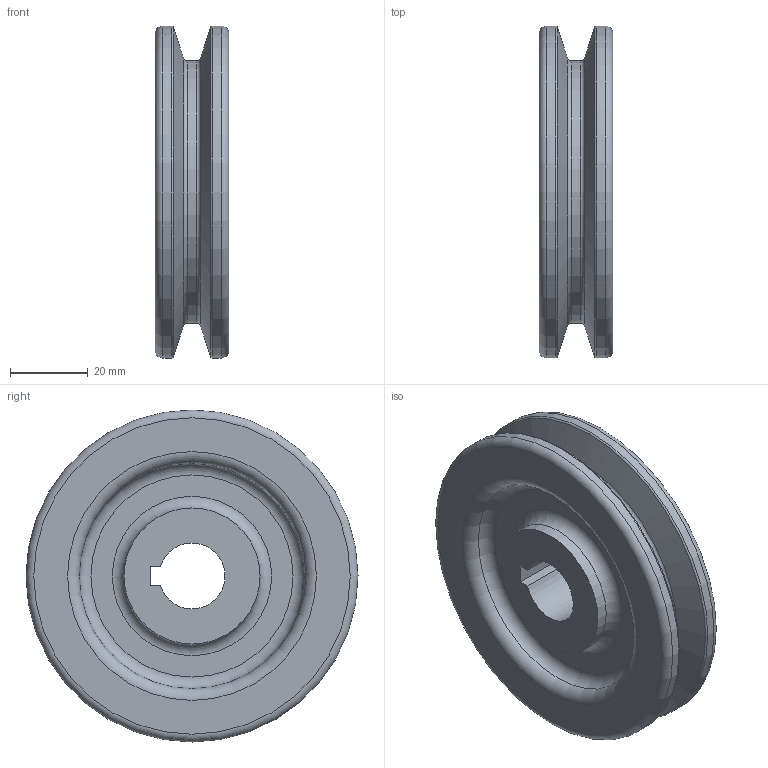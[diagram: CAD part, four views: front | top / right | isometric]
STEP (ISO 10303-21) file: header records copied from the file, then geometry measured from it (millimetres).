
FILE_DESCRIPTION(/* description */ (''),/* implementation_level */ '2;1');
FILE_NAME(/* name */ 'D:\381221E1010\381221E1010-V-벨트풀리.stp',/* time_stamp */ '2018-12-28T15:29:40+09:00',/* author */ ('hi'),/* organization */ (''),/* preprocessor_version */ 'ST-DEVELOPER v15.2',/* originating_system */ 'Autodesk Inventor 2014',/* authorisation */ '');
FILE_SCHEMA (('AUTOMOTIVE_DESIGN { 1 0 10303 214 3 1 1 }'));
Length unit declared in the file: millimetre
Products named in the file (1): Part1
Bounding box: 19 x 85.4 x 85.4 mm (x, y, z)
Volume: 69108.9 mm3; surface area: 21635.9 mm2
Topology: 1 solids, 1 shells, 29 faces, 55 edges, 32 vertices
Faces by surface type: torus 12, plane 9, cylinder 6, cone 2
Full cylindrical faces by diameter (mm): 35 x2, 67.4 x1, 85.4 x2
Entity records: 653 total; most frequent: DIRECTION 122, CARTESIAN_POINT 98, ORIENTED_EDGE 72, AXIS2_PLACEMENT_3D 56, EDGE_LOOP 54, EDGE_CURVE 36, VERTEX_POINT 32, ADVANCED_FACE 29
